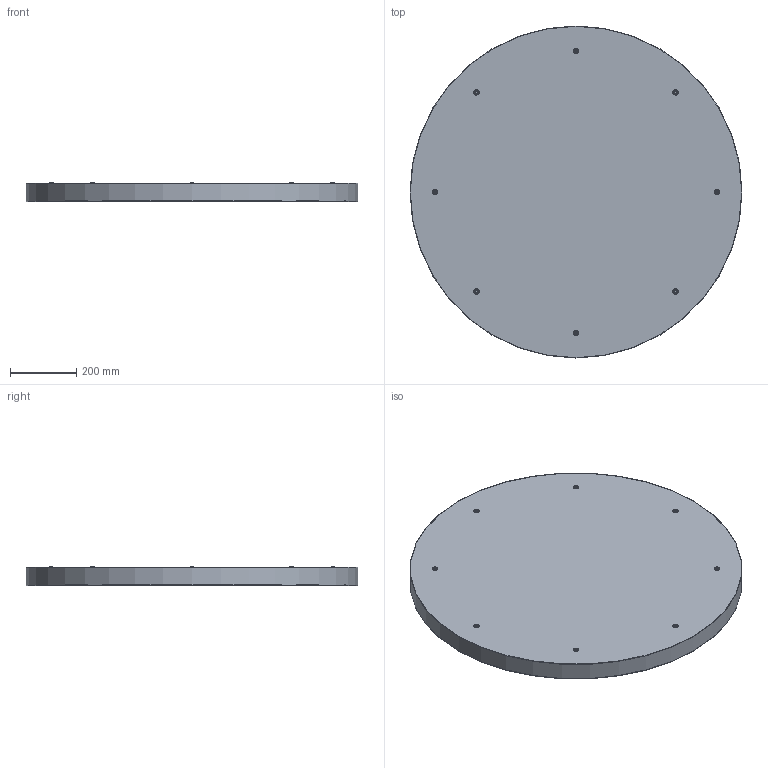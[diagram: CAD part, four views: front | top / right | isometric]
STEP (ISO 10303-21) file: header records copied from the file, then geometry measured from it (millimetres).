
FILE_DESCRIPTION (( 'STEP AP214' ), '1' );
FILE_NAME ('LONDON-P3760572.STEP', '2026-01-14T10:49:03', ( '' ), ( '' ), 'SwSTEP 2.0', 'SolidWorks 2025', '' );
FILE_SCHEMA (( 'AUTOMOTIVE_DESIGN' ));
Length unit declared in the file: millimetre
Products named in the file (1): LONDON-P3760572
Bounding box: 1000 x 1000 x 58 mm (x, y, z)
Volume: 1742172.2 mm3; surface area: 3490707.2 mm2
Topology: 2 solids, 2 shells, 84 faces, 188 edges, 126 vertices
Faces by surface type: torus 34, plane 22, cone 16, cylinder 12
Full cylindrical faces by diameter (mm): 5 x8, 990 x1, 994 x1, 998 x1, 1000 x1
Entity records: 1808 total; most frequent: DIRECTION 350, CARTESIAN_POINT 265, EDGE_LOOP 180, ORIENTED_EDGE 180, AXIS2_PLACEMENT_3D 175, FACE_OUTER_BOUND 130, EDGE_CURVE 90, CIRCLE 90
